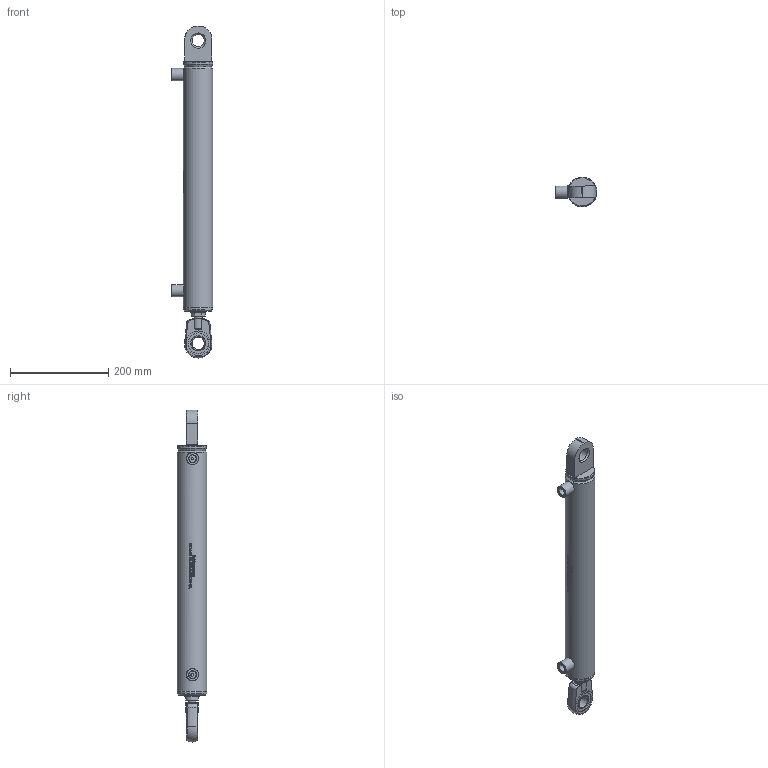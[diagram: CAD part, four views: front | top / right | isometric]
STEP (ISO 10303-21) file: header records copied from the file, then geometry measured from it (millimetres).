
FILE_DESCRIPTION(/* description */ (''),/* implementation_level */ '2;1');
FILE_NAME(/* name */ 'HCA_50_30_400_RK_MFSL.step',/* time_stamp */ '2023-01-22T21:29:42+03:00',/* author */ (''),/* organization */ (''),/* preprocessor_version */ 'ST-DEVELOPER v19.2',/* originating_system */ 'Autodesk Translation Framework v11.17.0.187',/* authorisation */ '');
FILE_SCHEMA (('AUTOMOTIVE_DESIGN { 1 0 10303 214 3 1 1 }'));
Length unit declared in the file: millimetre
Products named in the file (14): HCA_50_30_500_ÖRK_MFSL_WEB; 50arkakapak; RMK_RMK 25; TDK_50_30_M54x1,5; KO-45X3; K22-30X40X8; K06-30X38_6X5_3X7; RMV_25; dgihl_25_do; Ø50_HON_BORU_WEB; Bileşen1; 30_K_MIL_WEB; Bileşen1_1; Manşon_3_8
Assembly tree (14 placements, depth 3):
  HCA_50_30_500_ÖRK_MFSL_WEB
    50arkakapak
    RMK_RMK 25
    TDK_50_30_M54x1,5
      KO-45X3
      K22-30X40X8
      K06-30X38_6X5_3X7
    RMV_25
      dgihl_25_do
    Ø50_HON_BORU_WEB
      Bileşen1
    30_K_MIL_WEB
      Bileşen1_1
    Manşon_3_8  x2
Bounding box: 85.24 x 59.99 x 676 mm (x, y, z)
Volume: 746116.8 mm3; surface area: 255732.1 mm2
Topology: 11 solids, 11 shells, 776 faces, 2043 edges, 1353 vertices
Faces by surface type: bspline 381, plane 274, cylinder 62, cone 44, torus 12, sphere 3
Full cylindrical faces by diameter (mm): 4 x2, 6 x1, 14.376 x1, 15.25 x2, 15.85 x1, 19.85 x1, 25 x6, 30 x4, 30.6 x1, 31.6 x1, 34.835 x1, 38.6 x2, 40 x2, 42 x2, 45.5 x1, 49.94 x1, 50 x3, 51 x4, 53.526 x1, 54.85 x1, 55.5 x1, 59 x1, 60 x2
Entity records: 35773 total; most frequent: CARTESIAN_POINT 18735, ORIENTED_EDGE 4052, DIRECTION 2352, EDGE_CURVE 2026, VERTEX_POINT 1343, LINE 936, VECTOR 936, EDGE_LOOP 853
